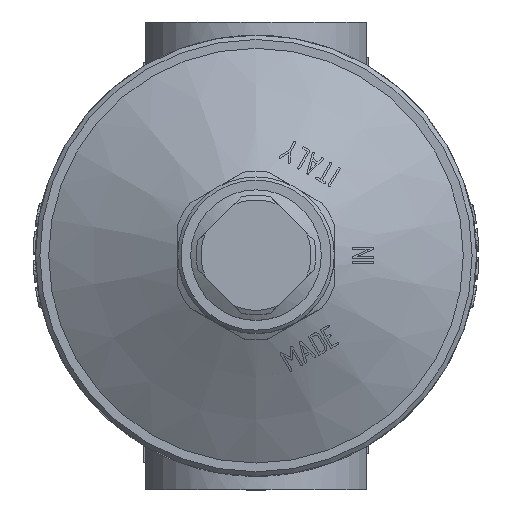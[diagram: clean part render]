
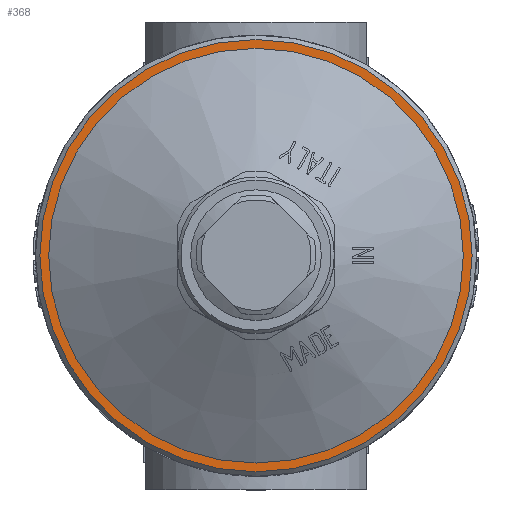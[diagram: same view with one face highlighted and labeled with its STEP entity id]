
A CAD part, top view. The second image highlights one B-rep face of the part: STEP entity #368.
In plain terms, the highlighted planar face has unit normal (0, 0, 1).
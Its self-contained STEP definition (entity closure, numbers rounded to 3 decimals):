
#368=ADVANCED_FACE('',(#3101,#3103),#3105,.T.);
#3101=FACE_BOUND('',#3102,.T.);
#3102=EDGE_LOOP('',(#9441));
#3103=FACE_BOUND('',#3104,.T.);
#3104=EDGE_LOOP('',(#9442));
#3105=PLANE('',#3106);
#3106=AXIS2_PLACEMENT_3D('',#3107,#3108,#3109);
#3107=CARTESIAN_POINT('',(0.,0.,39.));
#3108=DIRECTION('',(0.,0.,1.));
#3109=DIRECTION('',(0.,1.,0.));
#9441=ORIENTED_EDGE('',*,*,#13713,.T.);
#9442=ORIENTED_EDGE('',*,*,#14214,.F.);
#13713=EDGE_CURVE('',#16616,#16616,#16617,.T.);
#14214=EDGE_CURVE('',#17389,#17389,#17390,.T.);
#16616=VERTEX_POINT('',#26872);
#16617=CIRCLE('',#26873,49.);
#17389=VERTEX_POINT('',#32356);
#17390=CIRCLE('',#32357,47.);
#26872=CARTESIAN_POINT('',(0.,49.,39.));
#26873=AXIS2_PLACEMENT_3D('',#26874,#26875,#26876);
#26874=CARTESIAN_POINT('',(0.,0.,39.));
#26875=DIRECTION('',(0.,0.,1.));
#26876=DIRECTION('',(0.,1.,0.));
#32356=CARTESIAN_POINT('',(0.,47.,39.));
#32357=AXIS2_PLACEMENT_3D('',#32358,#32359,#32360);
#32358=CARTESIAN_POINT('',(0.,0.,39.));
#32359=DIRECTION('',(0.,0.,1.));
#32360=DIRECTION('',(0.,1.,0.));
